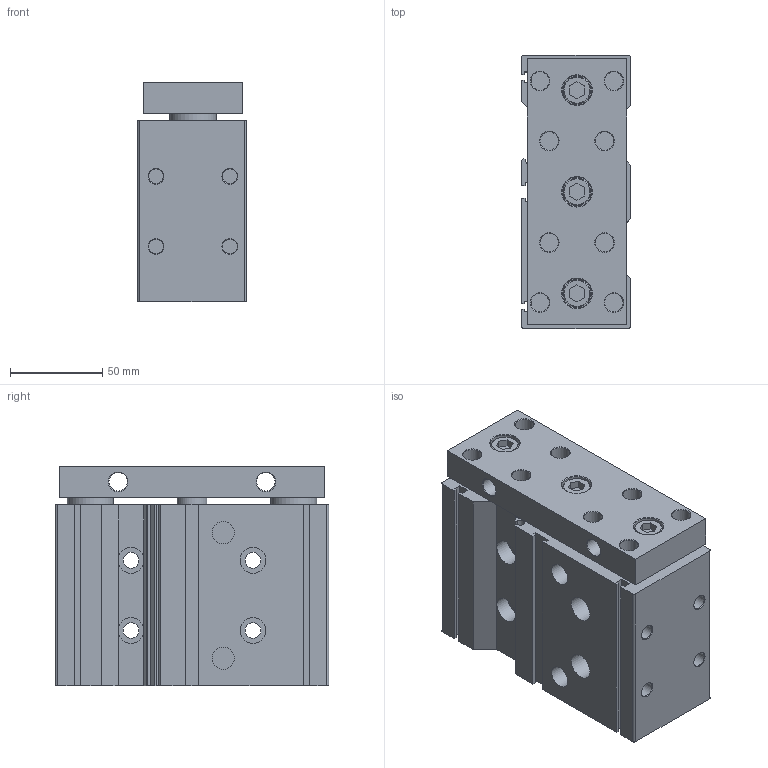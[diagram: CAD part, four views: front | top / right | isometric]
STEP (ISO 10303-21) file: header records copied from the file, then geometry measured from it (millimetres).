
FILE_DESCRIPTION((''),'2;1');
FILE_NAME('I:\3D電子目錄\氣缸\TB(U)\TB(U)50\TB50(U)\TB(U)50x75.stp','2007-08-06T09:22:33',('Administrator'),(''),'Autodesk Inventor 2008','Autodesk Inventor 2008','');
FILE_SCHEMA(('AUTOMOTIVE_DESIGN { 1 0 10303 214 1 1 1 1 }'));
Length unit declared in the file: millimetre
Products named in the file (1): TB(U)50X75
Bounding box: 59 x 148 x 119 mm (x, y, z)
Volume: 861188 mm3; surface area: 105781.1 mm2
Topology: 1 solids, 1 shells, 206 faces, 460 edges, 292 vertices
Faces by surface type: plane 106, cylinder 52, cone 37, bspline 8, torus 3
Full cylindrical faces by diameter (mm): 8 x4, 8.5 x4, 10 x18, 12 x2, 14 x4, 15 x3, 16 x4, 20 x2, 25 x2, 32 x2, 52 x1
Entity records: 5360 total; most frequent: CARTESIAN_POINT 945, DIRECTION 920, ORIENTED_EDGE 736, EDGE_CURVE 368, EDGE_LOOP 364, AXIS2_PLACEMENT_3D 353, VERTEX_POINT 290, VECTOR 214
